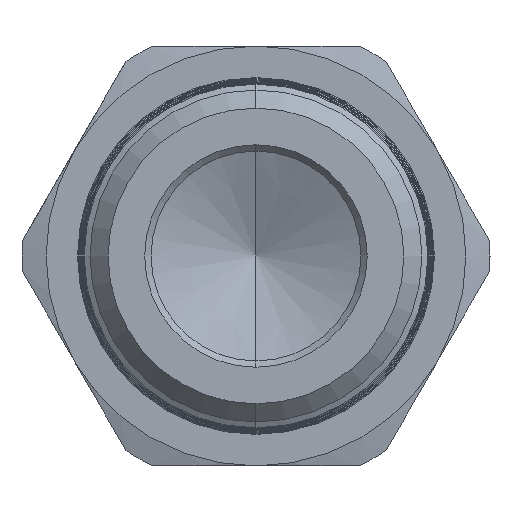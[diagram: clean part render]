
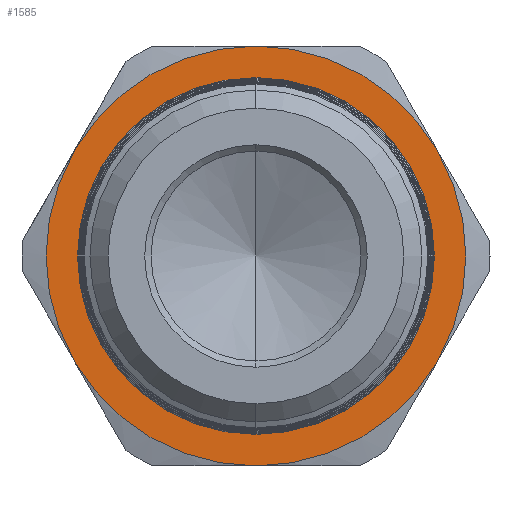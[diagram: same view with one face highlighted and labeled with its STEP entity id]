
A CAD part, left-side view. The second image highlights one B-rep face of the part: STEP entity #1585.
In plain terms, the highlighted planar face has unit normal (-1, 0, 0).
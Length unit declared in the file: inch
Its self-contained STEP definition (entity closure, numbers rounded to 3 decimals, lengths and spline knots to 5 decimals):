
#31 = CARTESIAN_POINT ( 'NONE',  ( 0.875, 0., 0.5 ) ) ;
#55 = CARTESIAN_POINT ( 'NONE',  ( 0.875, -0.43301, 0.25 ) ) ;
#63 = CARTESIAN_POINT ( 'NONE',  ( 0.875, -0.43301, -0.25 ) ) ;
#85 = CARTESIAN_POINT ( 'NONE',  ( 0.875, 0.43301, 0.25 ) ) ;
#113 = CARTESIAN_POINT ( 'NONE',  ( 0.875, 0.43301, -0.25 ) ) ;
#129 = CARTESIAN_POINT ( 'NONE',  ( 0.875, 0., -0.5 ) ) ;
#355 = VERTEX_POINT ( 'NONE', #63 ) ;
#356 = VERTEX_POINT ( 'NONE', #85 ) ;
#357 = VERTEX_POINT ( 'NONE', #113 ) ;
#358 = VERTEX_POINT ( 'NONE', #31 ) ;
#359 = VERTEX_POINT ( 'NONE', #55 ) ;
#360 = VERTEX_POINT ( 'NONE', #129 ) ;
#658 = ORIENTED_EDGE ( 'NONE', *, *, #869, .T. ) ;
#659 = ORIENTED_EDGE ( 'NONE', *, *, #10008, .T. ) ;
#660 = ORIENTED_EDGE ( 'NONE', *, *, #9967, .F. ) ;
#661 = ORIENTED_EDGE ( 'NONE', *, *, #2094, .F. ) ;
#662 = ORIENTED_EDGE ( 'NONE', *, *, #2095, .F. ) ;
#663 = ORIENTED_EDGE ( 'NONE', *, *, #1852, .F. ) ;
#664 = ORIENTED_EDGE ( 'NONE', *, *, #10019, .F. ) ;
#665 = ORIENTED_EDGE ( 'NONE', *, *, #2106, .F. ) ;
#869 = EDGE_CURVE ( 'NONE', #13101, #13063, #11183, .T. ) ;
#1012 = CARTESIAN_POINT ( 'NONE',  ( 0.875, 0., 0. ) ) ;
#1013 = DIRECTION ( 'NONE',  ( 1., 0., 0. ) ) ;
#1014 = DIRECTION ( 'NONE',  ( 0., 0., 1. ) ) ;
#1086 = CARTESIAN_POINT ( 'NONE',  ( 0.875, 0., 0. ) ) ;
#1087 = DIRECTION ( 'NONE',  ( 1., 0., 0. ) ) ;
#1088 = DIRECTION ( 'NONE',  ( 0., 0., -1. ) ) ;
#1585 = ADVANCED_FACE ( 'NONE', ( #11990, #11986 ), #11991, .T. ) ;
#1852 = EDGE_CURVE ( 'NONE', #360, #357, #9025, .T. ) ;
#1989 = CARTESIAN_POINT ( 'NONE',  ( 0.875, 0., 0. ) ) ;
#1990 = DIRECTION ( 'NONE',  ( 1., 0., 0. ) ) ;
#1991 = DIRECTION ( 'NONE',  ( 0., 0., 1. ) ) ;
#2094 = EDGE_CURVE ( 'NONE', #359, #355, #8976, .T. ) ;
#2095 = EDGE_CURVE ( 'NONE', #355, #360, #8979, .T. ) ;
#2106 = EDGE_CURVE ( 'NONE', #356, #358, #8962, .T. ) ;
#6599 = CARTESIAN_POINT ( 'NONE',  ( 0.875, 0., 0. ) ) ;
#6600 = DIRECTION ( 'NONE',  ( 1., 0., 0. ) ) ;
#6601 = DIRECTION ( 'NONE',  ( 0., 0., -1. ) ) ;
#6773 = CARTESIAN_POINT ( 'NONE',  ( 0.875, 0., 0. ) ) ;
#6774 = DIRECTION ( 'NONE',  ( 1., 0., 0. ) ) ;
#6775 = DIRECTION ( 'NONE',  ( 0., 0., -1. ) ) ;
#6778 = CARTESIAN_POINT ( 'NONE',  ( 0.875, 0., 0. ) ) ;
#6779 = DIRECTION ( 'NONE',  ( 1., 0., 0. ) ) ;
#6780 = DIRECTION ( 'NONE',  ( 0., 0., -1. ) ) ;
#6811 = CARTESIAN_POINT ( 'NONE',  ( 0.875, 0., 0. ) ) ;
#6812 = DIRECTION ( 'NONE',  ( 1., 0., 0. ) ) ;
#6813 = DIRECTION ( 'NONE',  ( 0., 0., -1. ) ) ;
#8239 = CARTESIAN_POINT ( 'NONE',  ( 0.875, 0., 0. ) ) ;
#8240 = DIRECTION ( 'NONE',  ( 1., 0., 0. ) ) ;
#8241 = DIRECTION ( 'NONE',  ( 0., 0., -1. ) ) ;
#8960 = AXIS2_PLACEMENT_3D ( 'NONE', #6811, #6812, #6813 ) ;
#8962 = CIRCLE ( 'NONE', #8960, 0.5 ) ;
#8972 = AXIS2_PLACEMENT_3D ( 'NONE', #6778, #6779, #6780 ) ;
#8974 = AXIS2_PLACEMENT_3D ( 'NONE', #6773, #6774, #6775 ) ;
#8976 = CIRCLE ( 'NONE', #8974, 0.5 ) ;
#8979 = CIRCLE ( 'NONE', #8972, 0.5 ) ;
#9009 = AXIS2_PLACEMENT_3D ( 'NONE', #6599, #6600, #6601 ) ;
#9025 = CIRCLE ( 'NONE', #9009, 0.5 ) ;
#9967 = EDGE_CURVE ( 'NONE', #358, #359, #12522, .T. ) ;
#10008 = EDGE_CURVE ( 'NONE', #13063, #13101, #12579, .T. ) ;
#10019 = EDGE_CURVE ( 'NONE', #357, #356, #12605, .T. ) ;
#10579 = CARTESIAN_POINT ( 'NONE',  ( 0.875, 0., 0.41875 ) ) ;
#10616 = CARTESIAN_POINT ( 'NONE',  ( 0.875, 0., -0.41875 ) ) ;
#11174 = AXIS2_PLACEMENT_3D ( 'NONE', #1989, #1990, #1991 ) ;
#11183 = CIRCLE ( 'NONE', #11174, 0.41875 ) ;
#11525 = AXIS2_PLACEMENT_3D ( 'NONE', #11981, #11993, #11994 ) ;
#11981 = CARTESIAN_POINT ( 'NONE',  ( 0.875, 1.23877, 0. ) ) ;
#11986 = FACE_BOUND ( 'NONE', #13983, .T. ) ;
#11990 = FACE_OUTER_BOUND ( 'NONE', #13881, .T. ) ;
#11991 = PLANE ( 'NONE',  #11525 ) ;
#11993 = DIRECTION ( 'NONE',  ( -1., 0., 0. ) ) ;
#11994 = DIRECTION ( 'NONE',  ( 0., 0., 1. ) ) ;
#12522 = CIRCLE ( 'NONE', #12524, 0.5 ) ;
#12524 = AXIS2_PLACEMENT_3D ( 'NONE', #8239, #8240, #8241 ) ;
#12579 = CIRCLE ( 'NONE', #12588, 0.41875 ) ;
#12588 = AXIS2_PLACEMENT_3D ( 'NONE', #1012, #1013, #1014 ) ;
#12605 = CIRCLE ( 'NONE', #12619, 0.5 ) ;
#12619 = AXIS2_PLACEMENT_3D ( 'NONE', #1086, #1087, #1088 ) ;
#13063 = VERTEX_POINT ( 'NONE', #10579 ) ;
#13101 = VERTEX_POINT ( 'NONE', #10616 ) ;
#13881 = EDGE_LOOP ( 'NONE', ( #665, #664, #663, #662, #661, #660 ) ) ;
#13983 = EDGE_LOOP ( 'NONE', ( #659, #658 ) ) ;
